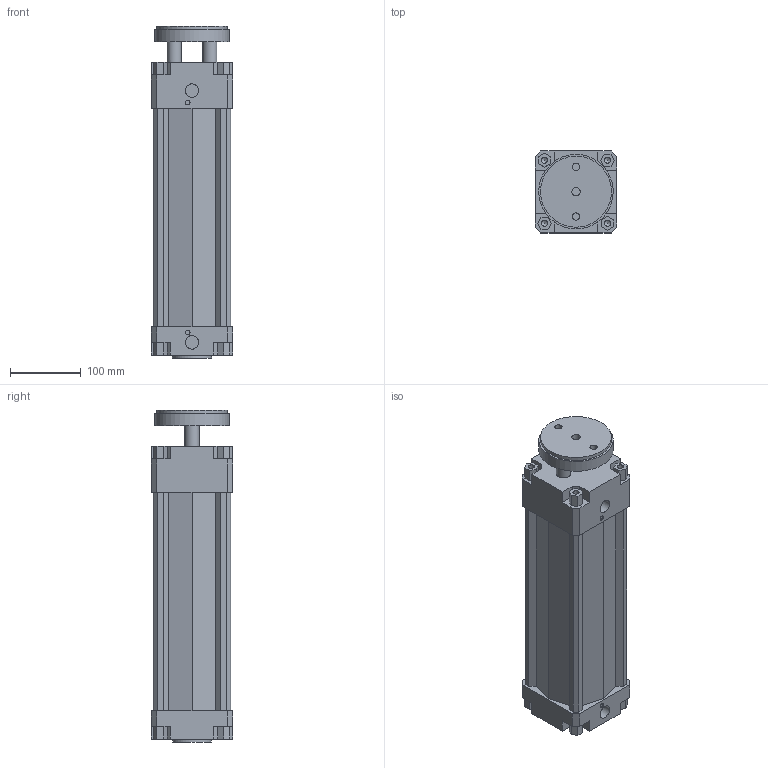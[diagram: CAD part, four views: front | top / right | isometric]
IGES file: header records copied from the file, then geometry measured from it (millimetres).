
Global section: file name: 134#_100_0250_01; native system: Autodesk Inventor 2014; preprocessor: unknown; author: A. Manieri; date: 20161006.165314; units: millimetre
Bounding box: 115 x 115 x 468 mm (x, y, z)
Volume: 2883735.8 mm3; surface area: 454271.3 mm2
Topology: 2 solids, 2 shells, 180 faces, 491 edges, 335 vertices
Faces by surface type: bspline 180
